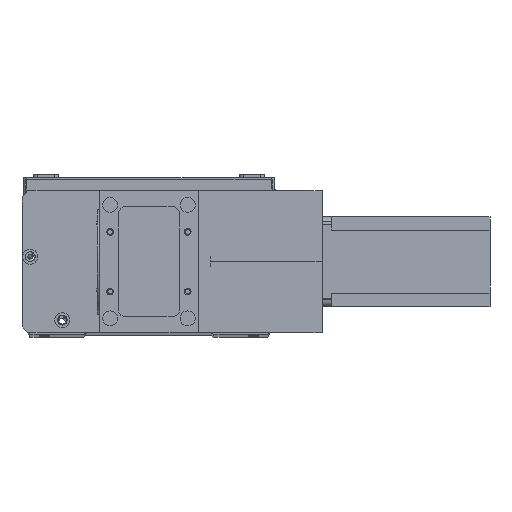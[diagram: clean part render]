
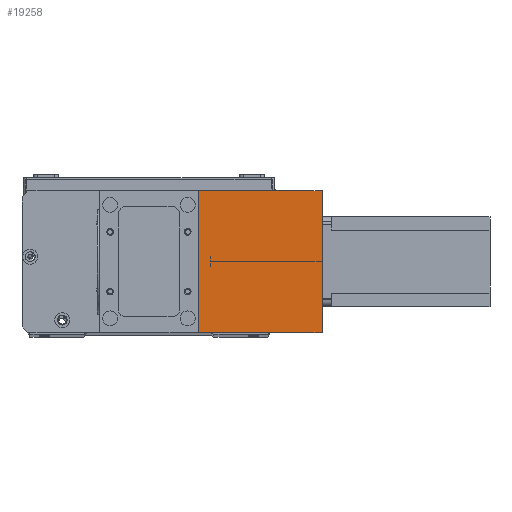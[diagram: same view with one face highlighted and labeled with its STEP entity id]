
A CAD part, top view. The second image highlights one B-rep face of the part: STEP entity #19258.
In plain terms, the highlighted planar face has unit normal (0, 0, 1) as drawn and (1, 0, 0) by its records, which use the part's own axes.
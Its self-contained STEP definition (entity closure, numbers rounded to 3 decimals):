
#497 = CARTESIAN_POINT ( 'NONE',  ( 82., 95., 0. ) ) ;
#914 = CARTESIAN_POINT ( 'NONE',  ( 82., 0., 83. ) ) ;
#2053 = AXIS2_PLACEMENT_3D ( 'NONE', #5468, #25154, #12105 ) ;
#2219 = CARTESIAN_POINT ( 'NONE',  ( 82., 0., 0. ) ) ;
#2339 = LINE ( 'NONE', #17668, #19324 ) ;
#2362 = VECTOR ( 'NONE', #2715, 1000. ) ;
#2686 = CARTESIAN_POINT ( 'NONE',  ( 82., 0., 83. ) ) ;
#2715 = DIRECTION ( 'NONE',  ( 0., 1., 0. ) ) ;
#4857 = LINE ( 'NONE', #26345, #10031 ) ;
#5468 = CARTESIAN_POINT ( 'NONE',  ( 82., 0., 83. ) ) ;
#6132 = ORIENTED_EDGE ( 'NONE', *, *, #27435, .T. ) ;
#6475 = EDGE_CURVE ( 'NONE', #11945, #23972, #25735, .T. ) ;
#6499 = VERTEX_POINT ( 'NONE', #2219 ) ;
#6951 = EDGE_CURVE ( 'NONE', #23972, #19207, #2339, .T. ) ;
#7072 = EDGE_CURVE ( 'NONE', #6499, #19207, #4857, .T. ) ;
#10031 = VECTOR ( 'NONE', #26724, 1000. ) ;
#11945 = VERTEX_POINT ( 'NONE', #914 ) ;
#12105 = DIRECTION ( 'NONE',  ( 0., 0., 1. ) ) ;
#13144 = CARTESIAN_POINT ( 'NONE',  ( 82., 0., 83. ) ) ;
#13332 = LINE ( 'NONE', #13144, #14002 ) ;
#14002 = VECTOR ( 'NONE', #15237, 1000. ) ;
#14744 = DIRECTION ( 'NONE',  ( 0., 0., -1. ) ) ;
#15237 = DIRECTION ( 'NONE',  ( 0., 0., -1. ) ) ;
#16513 = ORIENTED_EDGE ( 'NONE', *, *, #6951, .F. ) ;
#17668 = CARTESIAN_POINT ( 'NONE',  ( 82., 95., 83. ) ) ;
#19207 = VERTEX_POINT ( 'NONE', #497 ) ;
#19258 = ADVANCED_FACE ( 'NONE', ( #22229 ), #20840, .F. ) ;
#19324 = VECTOR ( 'NONE', #14744, 1000. ) ;
#20840 = PLANE ( 'NONE',  #2053 ) ;
#21838 = CARTESIAN_POINT ( 'NONE',  ( 82., 95., 83. ) ) ;
#22229 = FACE_OUTER_BOUND ( 'NONE', #27131, .T. ) ;
#23972 = VERTEX_POINT ( 'NONE', #21838 ) ;
#25154 = DIRECTION ( 'NONE',  ( -1., 0., 0. ) ) ;
#25735 = LINE ( 'NONE', #2686, #2362 ) ;
#26345 = CARTESIAN_POINT ( 'NONE',  ( 82., 0., 0. ) ) ;
#26724 = DIRECTION ( 'NONE',  ( 0., 1., 0. ) ) ;
#27131 = EDGE_LOOP ( 'NONE', ( #27282, #16513, #27164, #6132 ) ) ;
#27164 = ORIENTED_EDGE ( 'NONE', *, *, #6475, .F. ) ;
#27282 = ORIENTED_EDGE ( 'NONE', *, *, #7072, .T. ) ;
#27435 = EDGE_CURVE ( 'NONE', #11945, #6499, #13332, .T. ) ;
